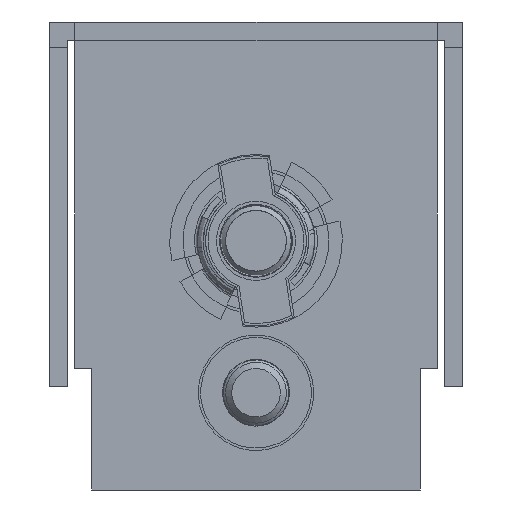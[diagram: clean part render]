
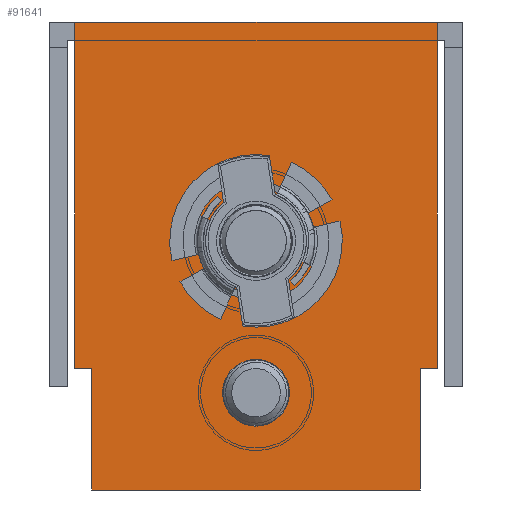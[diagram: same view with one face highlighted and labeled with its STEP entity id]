
A CAD part, left-side view. The second image highlights one B-rep face of the part: STEP entity #91641.
In plain terms, the highlighted planar face has unit normal (-1, 0, 0).
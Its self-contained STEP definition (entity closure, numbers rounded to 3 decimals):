
#7778 = VERTEX_POINT('',#7779);
#7779 = CARTESIAN_POINT('',(-649.,-14.9,1.5));
#7858 = VERTEX_POINT('',#7859);
#7859 = CARTESIAN_POINT('',(-649.,14.9,1.5));
#7865 = EDGE_CURVE('',#7858,#7778,#7866,.T.);
#7866 = LINE('',#7867,#7868);
#7867 = CARTESIAN_POINT('',(-649.,0.,1.5));
#7868 = VECTOR('',#7869,1.);
#7869 = DIRECTION('',(0.,-1.,0.));
#91529 = VERTEX_POINT('',#91530);
#91530 = CARTESIAN_POINT('',(-649.,14.9,-0.6));
#91536 = EDGE_CURVE('',#91529,#7858,#91537,.T.);
#91537 = LINE('',#91538,#91539);
#91538 = CARTESIAN_POINT('',(-649.,14.9,0.));
#91539 = VECTOR('',#91540,1.);
#91540 = DIRECTION('',(0.,-0.,1.));
#91554 = VERTEX_POINT('',#91555);
#91555 = CARTESIAN_POINT('',(-649.,-14.9,-0.6));
#91569 = EDGE_CURVE('',#91554,#7778,#91570,.T.);
#91570 = LINE('',#91571,#91572);
#91571 = CARTESIAN_POINT('',(-649.,-14.9,-0.6));
#91572 = VECTOR('',#91573,1.);
#91573 = DIRECTION('',(0.,0.,1.));
#91592 = VERTEX_POINT('',#91593);
#91593 = CARTESIAN_POINT('',(-649.,14.9,-27.));
#91599 = EDGE_CURVE('',#91529,#91592,#91600,.T.);
#91600 = LINE('',#91601,#91602);
#91601 = CARTESIAN_POINT('',(-649.,14.9,-37.));
#91602 = VECTOR('',#91603,1.);
#91603 = DIRECTION('',(0.,0.,-1.));
#91614 = EDGE_CURVE('',#91615,#91554,#91617,.T.);
#91615 = VERTEX_POINT('',#91616);
#91616 = CARTESIAN_POINT('',(-649.,-14.9,-27.));
#91617 = LINE('',#91618,#91619);
#91618 = CARTESIAN_POINT('',(-649.,-14.9,0.));
#91619 = VECTOR('',#91620,1.);
#91620 = DIRECTION('',(0.,0.,1.));
#91641 = ADVANCED_FACE('',(#91642,#91653,#91664),#91709,.F.);
#91642 = FACE_BOUND('',#91643,.T.);
#91643 = EDGE_LOOP('',(#91644));
#91644 = ORIENTED_EDGE('',*,*,#91645,.T.);
#91645 = EDGE_CURVE('',#91646,#91646,#91648,.T.);
#91646 = VERTEX_POINT('',#91647);
#91647 = CARTESIAN_POINT('',(-649.,0.,-19.75));
#91648 = CIRCLE('',#91649,3.25);
#91649 = AXIS2_PLACEMENT_3D('',#91650,#91651,#91652);
#91650 = CARTESIAN_POINT('',(-649.,0.,-16.5));
#91651 = DIRECTION('',(1.,0.,0.));
#91652 = DIRECTION('',(0.,0.,-1.));
#91653 = FACE_BOUND('',#91654,.T.);
#91654 = EDGE_LOOP('',(#91655));
#91655 = ORIENTED_EDGE('',*,*,#91656,.T.);
#91656 = EDGE_CURVE('',#91657,#91657,#91659,.T.);
#91657 = VERTEX_POINT('',#91658);
#91658 = CARTESIAN_POINT('',(-649.,0.,-31.75));
#91659 = CIRCLE('',#91660,2.75);
#91660 = AXIS2_PLACEMENT_3D('',#91661,#91662,#91663);
#91661 = CARTESIAN_POINT('',(-649.,0.,-29.));
#91662 = DIRECTION('',(1.,0.,0.));
#91663 = DIRECTION('',(0.,0.,-1.));
#91664 = FACE_BOUND('',#91665,.T.);
#91665 = EDGE_LOOP('',(#91666,#91676,#91682,#91683,#91684,#91685,#91686,
    #91687,#91695,#91703));
#91666 = ORIENTED_EDGE('',*,*,#91667,.T.);
#91667 = EDGE_CURVE('',#91668,#91670,#91672,.T.);
#91668 = VERTEX_POINT('',#91669);
#91669 = CARTESIAN_POINT('',(-649.,-13.5,-37.));
#91670 = VERTEX_POINT('',#91671);
#91671 = CARTESIAN_POINT('',(-649.,-13.5,-27.));
#91672 = LINE('',#91673,#91674);
#91673 = CARTESIAN_POINT('',(-649.,-13.5,-37.));
#91674 = VECTOR('',#91675,1.);
#91675 = DIRECTION('',(0.,0.,1.));
#91676 = ORIENTED_EDGE('',*,*,#91677,.T.);
#91677 = EDGE_CURVE('',#91670,#91615,#91678,.T.);
#91678 = LINE('',#91679,#91680);
#91679 = CARTESIAN_POINT('',(-649.,-14.9,-27.));
#91680 = VECTOR('',#91681,1.);
#91681 = DIRECTION('',(-0.,-1.,-0.));
#91682 = ORIENTED_EDGE('',*,*,#91614,.T.);
#91683 = ORIENTED_EDGE('',*,*,#91569,.T.);
#91684 = ORIENTED_EDGE('',*,*,#7865,.F.);
#91685 = ORIENTED_EDGE('',*,*,#91536,.F.);
#91686 = ORIENTED_EDGE('',*,*,#91599,.T.);
#91687 = ORIENTED_EDGE('',*,*,#91688,.T.);
#91688 = EDGE_CURVE('',#91592,#91689,#91691,.T.);
#91689 = VERTEX_POINT('',#91690);
#91690 = CARTESIAN_POINT('',(-649.,13.5,-27.));
#91691 = LINE('',#91692,#91693);
#91692 = CARTESIAN_POINT('',(-649.,14.9,-27.));
#91693 = VECTOR('',#91694,1.);
#91694 = DIRECTION('',(0.,-1.,0.));
#91695 = ORIENTED_EDGE('',*,*,#91696,.T.);
#91696 = EDGE_CURVE('',#91689,#91697,#91699,.T.);
#91697 = VERTEX_POINT('',#91698);
#91698 = CARTESIAN_POINT('',(-649.,13.5,-37.));
#91699 = LINE('',#91700,#91701);
#91700 = CARTESIAN_POINT('',(-649.,13.5,-37.));
#91701 = VECTOR('',#91702,1.);
#91702 = DIRECTION('',(-0.,0.,-1.));
#91703 = ORIENTED_EDGE('',*,*,#91704,.T.);
#91704 = EDGE_CURVE('',#91697,#91668,#91705,.T.);
#91705 = LINE('',#91706,#91707);
#91706 = CARTESIAN_POINT('',(-649.,-14.9,-37.));
#91707 = VECTOR('',#91708,1.);
#91708 = DIRECTION('',(-0.,-1.,0.));
#91709 = PLANE('',#91710);
#91710 = AXIS2_PLACEMENT_3D('',#91711,#91712,#91713);
#91711 = CARTESIAN_POINT('',(-649.,0.,
    0.));
#91712 = DIRECTION('',(1.,0.,0.));
#91713 = DIRECTION('',(0.,0.,-1.));
